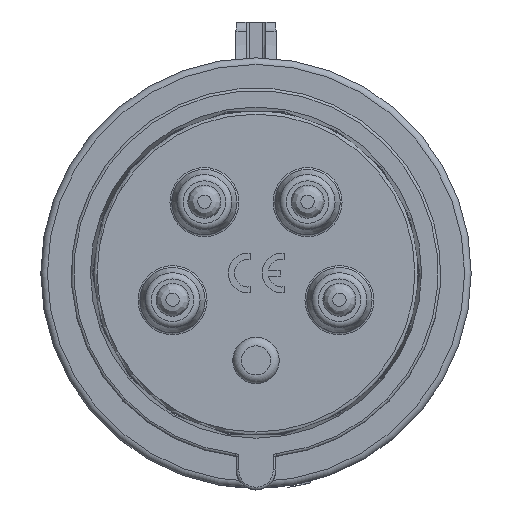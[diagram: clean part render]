
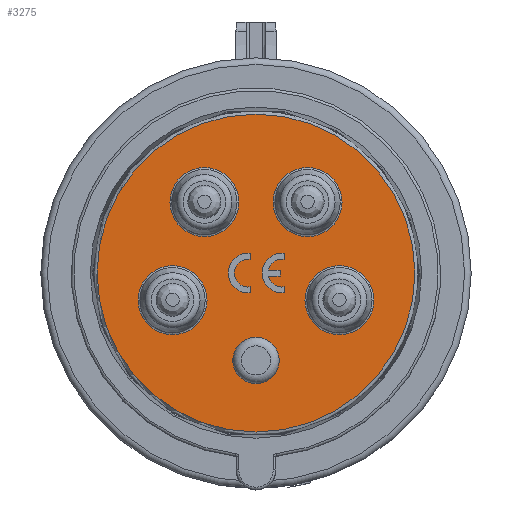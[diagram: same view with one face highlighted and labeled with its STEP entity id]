
A CAD part, top view. The second image highlights one B-rep face of the part: STEP entity #3275.
In plain terms, the highlighted planar face has unit normal (0, 0, 1).
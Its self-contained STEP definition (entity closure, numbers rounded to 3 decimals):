
#584=FACE_BOUND('',#3886,.T.);
#585=FACE_BOUND('',#3887,.T.);
#586=FACE_BOUND('',#3888,.T.);
#587=FACE_BOUND('',#3889,.T.);
#588=FACE_BOUND('',#3890,.T.);
#757=PLANE('',#10327);
#3275=ADVANCED_FACE('',(#584,#585,#586,#587,#588),#757,.F.);
#3886=EDGE_LOOP('',(#6507));
#3887=EDGE_LOOP('',(#6508));
#3888=EDGE_LOOP('',(#6509));
#3889=EDGE_LOOP('',(#6510));
#3890=EDGE_LOOP('',(#6511));
#4740=CIRCLE('',#10293,24.);
#4750=CIRCLE('',#10310,5.21);
#4752=CIRCLE('',#10315,5.21);
#4754=CIRCLE('',#10320,5.21);
#4756=CIRCLE('',#10325,5.21);
#6507=ORIENTED_EDGE('',*,*,#8914,.F.);
#6508=ORIENTED_EDGE('',*,*,#8928,.F.);
#6509=ORIENTED_EDGE('',*,*,#8926,.F.);
#6510=ORIENTED_EDGE('',*,*,#8924,.F.);
#6511=ORIENTED_EDGE('',*,*,#8930,.F.);
#7605=VERTEX_POINT('',#23173);
#7615=VERTEX_POINT('',#23200);
#7617=VERTEX_POINT('',#23207);
#7619=VERTEX_POINT('',#23214);
#7621=VERTEX_POINT('',#23221);
#8914=EDGE_CURVE('',#7605,#7605,#4740,.T.);
#8924=EDGE_CURVE('',#7615,#7615,#4750,.T.);
#8926=EDGE_CURVE('',#7617,#7617,#4752,.T.);
#8928=EDGE_CURVE('',#7619,#7619,#4754,.T.);
#8930=EDGE_CURVE('',#7621,#7621,#4756,.T.);
#10293=AXIS2_PLACEMENT_3D('',#23172,#12028,#12029);
#10310=AXIS2_PLACEMENT_3D('',#23199,#12062,#12063);
#10315=AXIS2_PLACEMENT_3D('',#23206,#12072,#12073);
#10320=AXIS2_PLACEMENT_3D('',#23213,#12082,#12083);
#10325=AXIS2_PLACEMENT_3D('',#23220,#12092,#12093);
#10327=AXIS2_PLACEMENT_3D('',#23223,#12096,#12097);
#12028=DIRECTION('',(0.,0.,-1.));
#12029=DIRECTION('',(-1.,0.,0.));
#12062=DIRECTION('',(0.,0.,1.));
#12063=DIRECTION('',(-1.,0.,0.));
#12072=DIRECTION('',(0.,0.,1.));
#12073=DIRECTION('',(-1.,0.,0.));
#12082=DIRECTION('',(0.,0.,1.));
#12083=DIRECTION('',(-1.,0.,0.));
#12092=DIRECTION('',(0.,0.,1.));
#12093=DIRECTION('',(-1.,0.,0.));
#12096=DIRECTION('',(0.,0.,-1.));
#12097=DIRECTION('',(1.,0.,0.));
#23172=CARTESIAN_POINT('',(0.,0.,-36.5));
#23173=CARTESIAN_POINT('',(-24.,0.,-36.5));
#23199=CARTESIAN_POINT('',(7.788,10.719,-36.5));
#23200=CARTESIAN_POINT('',(2.578,10.719,-36.5));
#23206=CARTESIAN_POINT('',(-7.788,10.719,-36.5));
#23207=CARTESIAN_POINT('',(-12.998,10.719,-36.5));
#23213=CARTESIAN_POINT('',(-12.601,-4.094,-36.5));
#23214=CARTESIAN_POINT('',(-17.812,-4.094,-36.5));
#23220=CARTESIAN_POINT('',(12.601,-4.094,-36.5));
#23221=CARTESIAN_POINT('',(7.391,-4.094,-36.5));
#23223=CARTESIAN_POINT('',(29.4,-29.4,-36.5));
